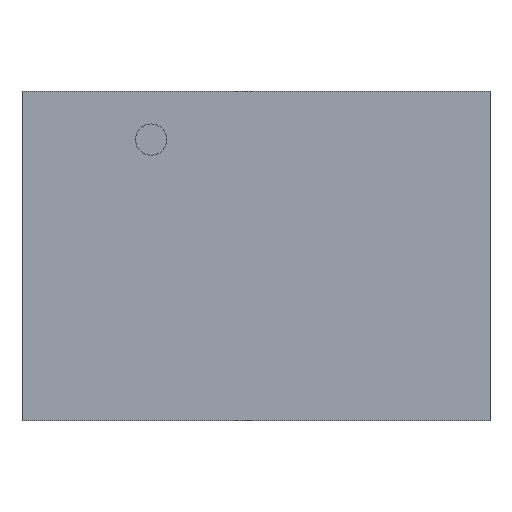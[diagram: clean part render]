
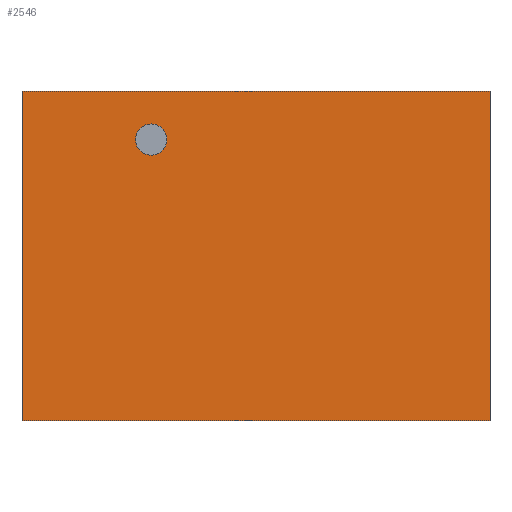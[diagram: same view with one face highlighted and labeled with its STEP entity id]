
A CAD part, front view. The second image highlights one B-rep face of the part: STEP entity #2546.
In plain terms, the highlighted planar face has unit normal (0, -1, 0).
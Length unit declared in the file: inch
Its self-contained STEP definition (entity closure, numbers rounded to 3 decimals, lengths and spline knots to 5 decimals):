
#236 = FACE_BOUND ( 'NONE', #3320, .T. ) ;
#242 = FACE_OUTER_BOUND ( 'NONE', #3309, .T. ) ;
#777 = AXIS2_PLACEMENT_3D ( 'NONE', #1441, #1446, #1447 ) ;
#847 = CARTESIAN_POINT ( 'NONE',  ( 2., 0., -0.747 ) ) ;
#848 = DIRECTION ( 'NONE',  ( 0., -1., 0. ) ) ;
#849 = DIRECTION ( 'NONE',  ( 0., 0., -1. ) ) ;
#924 = CARTESIAN_POINT ( 'NONE',  ( 0., 0., 0. ) ) ;
#929 = CARTESIAN_POINT ( 'NONE',  ( 0., 0., -5.1 ) ) ;
#931 = CARTESIAN_POINT ( 'NONE',  ( 7.25, 0., 0. ) ) ;
#936 = CARTESIAN_POINT ( 'NONE',  ( 7.25, 0., -5.1 ) ) ;
#1441 = CARTESIAN_POINT ( 'NONE',  ( 0., 0., -5.1 ) ) ;
#1444 = PLANE ( 'NONE',  #777 ) ;
#1446 = DIRECTION ( 'NONE',  ( 0., -1., 0. ) ) ;
#1447 = DIRECTION ( 'NONE',  ( 0., 0., -1. ) ) ;
#1543 = CARTESIAN_POINT ( 'NONE',  ( 2., 0., -0.989 ) ) ;
#1570 = CARTESIAN_POINT ( 'NONE',  ( 2., 0., -0.505 ) ) ;
#1627 = VECTOR ( 'NONE', #3462, 39.37008 ) ;
#1630 = CIRCLE ( 'NONE', #2416, 0.242 ) ;
#1636 = LINE ( 'NONE', #3474, #1642 ) ;
#1637 = LINE ( 'NONE', #3478, #1708 ) ;
#1642 = VECTOR ( 'NONE', #3481, 39.37008 ) ;
#1644 = VECTOR ( 'NONE', #3488, 39.37008 ) ;
#1671 = CIRCLE ( 'NONE', #3039, 0.242 ) ;
#1692 = LINE ( 'NONE', #3453, #1627 ) ;
#1708 = VECTOR ( 'NONE', #3480, 39.37008 ) ;
#1709 = LINE ( 'NONE', #3487, #1644 ) ;
#1761 = EDGE_CURVE ( 'NONE', #2784, #2779, #1692, .T. ) ;
#1768 = EDGE_CURVE ( 'NONE', #2734, #2761, #1630, .T. ) ;
#1770 = EDGE_CURVE ( 'NONE', #2791, #2786, #1637, .T. ) ;
#1771 = EDGE_CURVE ( 'NONE', #2779, #2786, #1636, .T. ) ;
#1774 = EDGE_CURVE ( 'NONE', #2784, #2791, #1709, .T. ) ;
#1934 = EDGE_CURVE ( 'NONE', #2761, #2734, #1671, .T. ) ;
#2416 = AXIS2_PLACEMENT_3D ( 'NONE', #3475, #3476, #3477 ) ;
#2546 = ADVANCED_FACE ( 'NONE', ( #236, #242 ), #1444, .T. ) ;
#2576 = ORIENTED_EDGE ( 'NONE', *, *, #1771, .F. ) ;
#2578 = ORIENTED_EDGE ( 'NONE', *, *, #1768, .F. ) ;
#2581 = ORIENTED_EDGE ( 'NONE', *, *, #1761, .F. ) ;
#2582 = ORIENTED_EDGE ( 'NONE', *, *, #1770, .T. ) ;
#2584 = ORIENTED_EDGE ( 'NONE', *, *, #1774, .T. ) ;
#2585 = ORIENTED_EDGE ( 'NONE', *, *, #1934, .F. ) ;
#2734 = VERTEX_POINT ( 'NONE', #1543 ) ;
#2761 = VERTEX_POINT ( 'NONE', #1570 ) ;
#2779 = VERTEX_POINT ( 'NONE', #924 ) ;
#2784 = VERTEX_POINT ( 'NONE', #929 ) ;
#2786 = VERTEX_POINT ( 'NONE', #931 ) ;
#2791 = VERTEX_POINT ( 'NONE', #936 ) ;
#3039 = AXIS2_PLACEMENT_3D ( 'NONE', #847, #848, #849 ) ;
#3309 = EDGE_LOOP ( 'NONE', ( #2576, #2581, #2584, #2582 ) ) ;
#3320 = EDGE_LOOP ( 'NONE', ( #2578, #2585 ) ) ;
#3453 = CARTESIAN_POINT ( 'NONE',  ( 0., 0., -5.1 ) ) ;
#3462 = DIRECTION ( 'NONE',  ( 0., 0., 1. ) ) ;
#3474 = CARTESIAN_POINT ( 'NONE',  ( 0., 0., 0. ) ) ;
#3475 = CARTESIAN_POINT ( 'NONE',  ( 2., 0., -0.747 ) ) ;
#3476 = DIRECTION ( 'NONE',  ( 0., -1., 0. ) ) ;
#3477 = DIRECTION ( 'NONE',  ( 0., 0., -1. ) ) ;
#3478 = CARTESIAN_POINT ( 'NONE',  ( 7.25, 0., -5.1 ) ) ;
#3480 = DIRECTION ( 'NONE',  ( 0., 0., 1. ) ) ;
#3481 = DIRECTION ( 'NONE',  ( 1., 0., 0. ) ) ;
#3487 = CARTESIAN_POINT ( 'NONE',  ( 0., 0., -5.1 ) ) ;
#3488 = DIRECTION ( 'NONE',  ( 1., 0., 0. ) ) ;
